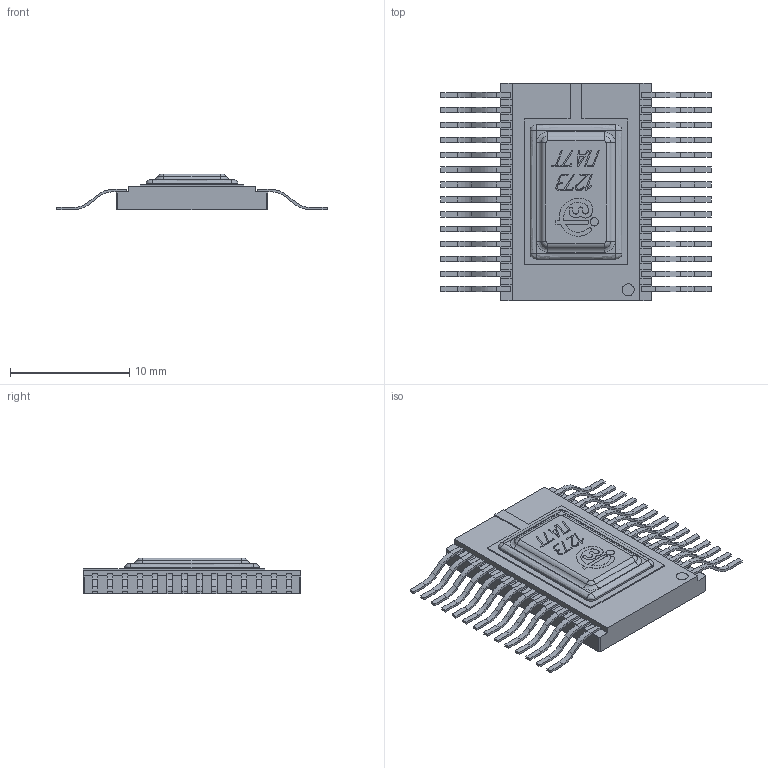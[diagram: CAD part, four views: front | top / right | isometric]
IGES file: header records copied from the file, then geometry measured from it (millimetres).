
Start section: IGES file generated from Kompas 1.1 for Windows drawing by the IGES translator from Ascon Ltd., translator version IGESOUT-5.1.
Global section: file name: D:\Work\3D\4119.28-1\1273ÏÀ7Ò.igs; native system: Kompas( 32 bit ) for Windows; preprocessor: 1.0; author: Âîðîíîâ; organization: unknown; date: -17811116:101855; units: millimetre
Bounding box: 22.7 x 18.25 x 3 mm (x, y, z)
Volume: 534.4 mm3; surface area: 1262.2 mm2
Topology: 32 solids, 32 shells, 994 faces, 2682 edges, 1760 vertices
Faces by surface type: bspline 765, revolution 218, extrusion 11
